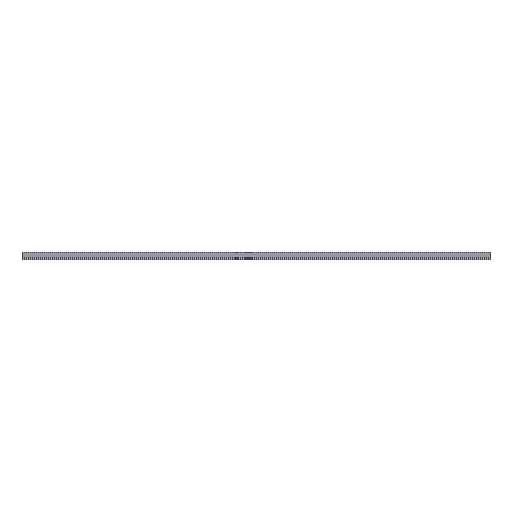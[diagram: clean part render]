
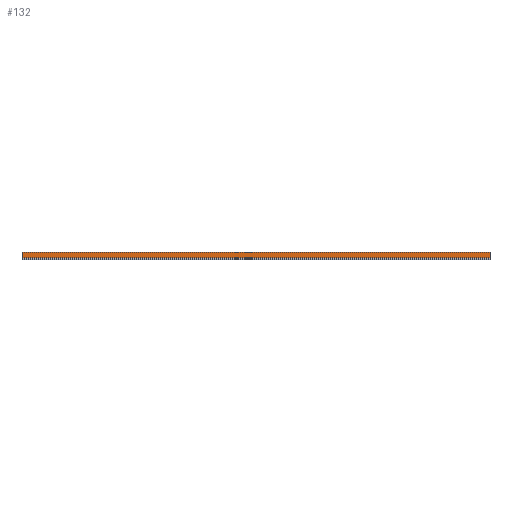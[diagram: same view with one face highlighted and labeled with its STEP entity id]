
A CAD part, front view. The second image highlights one B-rep face of the part: STEP entity #132.
In plain terms, the highlighted planar face has unit normal (0, -1, 0).
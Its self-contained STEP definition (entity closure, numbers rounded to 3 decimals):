
#132 = ADVANCED_FACE( '', ( #249 ), #250, .F. );
#249 = FACE_OUTER_BOUND( '', #350, .T. );
#250 = PLANE( '', #351 );
#350 = EDGE_LOOP( '', ( #625, #626, #627, #628 ) );
#351 = AXIS2_PLACEMENT_3D( '', #629, #630, #631 );
#625 = ORIENTED_EDGE( '', *, *, #683, .T. );
#626 = ORIENTED_EDGE( '', *, *, #694, .F. );
#627 = ORIENTED_EDGE( '', *, *, #706, .F. );
#628 = ORIENTED_EDGE( '', *, *, #741, .T. );
#629 = CARTESIAN_POINT( '', ( 3500., 16., 53.5 ) );
#630 = DIRECTION( '', ( 0., 1., 0. ) );
#631 = DIRECTION( '', ( 0., 0., 1. ) );
#683 = EDGE_CURVE( '', #795, #829, #831, .T. );
#694 = EDGE_CURVE( '', #845, #829, #847, .T. );
#706 = EDGE_CURVE( '', #861, #845, #863, .T. );
#741 = EDGE_CURVE( '', #861, #795, #905, .T. );
#795 = VERTEX_POINT( '', #980 );
#829 = VERTEX_POINT( '', #1031 );
#831 = LINE( '', #1033, #1034 );
#845 = VERTEX_POINT( '', #1054 );
#847 = LINE( '', #1056, #1057 );
#861 = VERTEX_POINT( '', #1077 );
#863 = LINE( '', #1080, #1081 );
#905 = LINE( '', #1141, #1142 );
#980 = CARTESIAN_POINT( '', ( 0., 16., 53.5 ) );
#1031 = CARTESIAN_POINT( '', ( 0., 16., 14.5 ) );
#1033 = CARTESIAN_POINT( '', ( 0., 16., 53.5 ) );
#1034 = VECTOR( '', #1197, 1000. );
#1054 = CARTESIAN_POINT( '', ( 3500., 16., 14.5 ) );
#1056 = CARTESIAN_POINT( '', ( 3500., 16., 14.5 ) );
#1057 = VECTOR( '', #1207, 1000. );
#1077 = CARTESIAN_POINT( '', ( 3500., 16., 53.5 ) );
#1080 = CARTESIAN_POINT( '', ( 3500., 16., 53.5 ) );
#1081 = VECTOR( '', #1215, 1000. );
#1141 = CARTESIAN_POINT( '', ( 3500., 16., 53.5 ) );
#1142 = VECTOR( '', #1240, 1000. );
#1197 = DIRECTION( '', ( 0., 0., -1. ) );
#1207 = DIRECTION( '', ( -1., 0., 0. ) );
#1215 = DIRECTION( '', ( 0., 0., -1. ) );
#1240 = DIRECTION( '', ( -1., 0., 0. ) );
